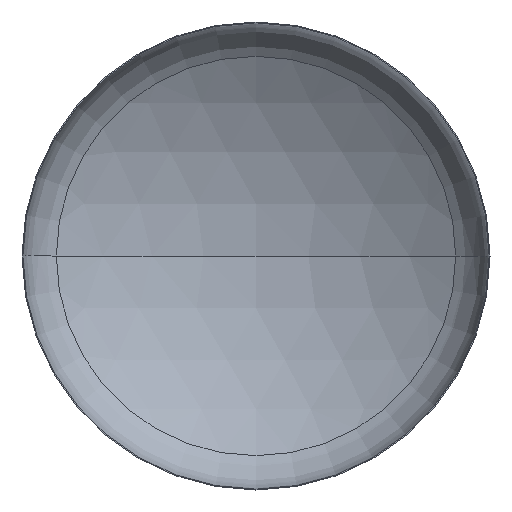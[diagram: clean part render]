
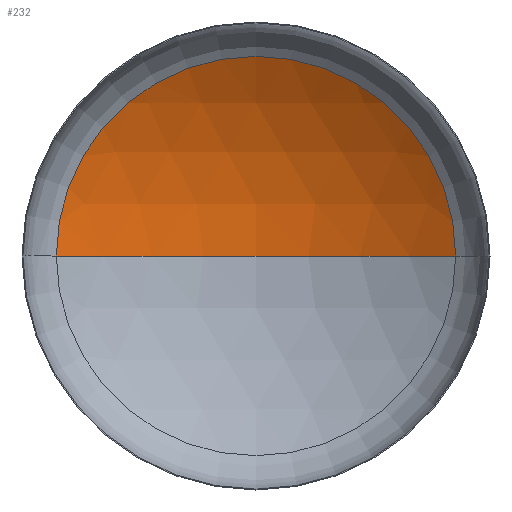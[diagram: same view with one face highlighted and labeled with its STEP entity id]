
A CAD part, front view. The second image highlights one B-rep face of the part: STEP entity #232.
In plain terms, the highlighted spherical face has radius 1280 mm.
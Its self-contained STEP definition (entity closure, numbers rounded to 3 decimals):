
#18 = EDGE_LOOP ( 'NONE', ( #36, #405, #155 ) ) ;
#29 = VERTEX_POINT ( 'NONE', #296 ) ;
#36 = ORIENTED_EDGE ( 'NONE', *, *, #269, .F. ) ;
#77 = SPHERICAL_SURFACE ( 'NONE', #182, 1280. ) ;
#90 = VERTEX_POINT ( 'NONE', #243 ) ;
#113 = AXIS2_PLACEMENT_3D ( 'NONE', #239, #236, #167 ) ;
#129 = AXIS2_PLACEMENT_3D ( 'NONE', #257, #292, #284 ) ;
#135 = VERTEX_POINT ( 'NONE', #325 ) ;
#154 = AXIS2_PLACEMENT_3D ( 'NONE', #222, #219, #221 ) ;
#155 = ORIENTED_EDGE ( 'NONE', *, *, #263, .T. ) ;
#167 = DIRECTION ( 'NONE',  ( 1., 0., 0. ) ) ;
#182 = AXIS2_PLACEMENT_3D ( 'NONE', #196, #346, #305 ) ;
#196 = CARTESIAN_POINT ( 'NONE',  ( 0., -855.512, 0. ) ) ;
#219 = DIRECTION ( 'NONE',  ( 0., -1., 0. ) ) ;
#221 = DIRECTION ( 'NONE',  ( 1., 0., 0. ) ) ;
#222 = CARTESIAN_POINT ( 'NONE',  ( 0., 227.247, 0. ) ) ;
#232 = ADVANCED_FACE ( 'NONE', ( #334 ), #77, .F. ) ;
#236 = DIRECTION ( 'NONE',  ( 0., 0., 1. ) ) ;
#239 = CARTESIAN_POINT ( 'NONE',  ( 0., -855.512, 0. ) ) ;
#243 = CARTESIAN_POINT ( 'NONE',  ( 682.667, 227.247, 0. ) ) ;
#257 = CARTESIAN_POINT ( 'NONE',  ( 0., -855.512, 0. ) ) ;
#260 = CIRCLE ( 'NONE', #129, 1280. ) ;
#263 = EDGE_CURVE ( 'NONE', #90, #135, #324, .T. ) ;
#265 = EDGE_CURVE ( 'NONE', #29, #90, #260, .T. ) ;
#269 = EDGE_CURVE ( 'NONE', #29, #135, #319, .T. ) ;
#284 = DIRECTION ( 'NONE',  ( -1., 0., 0. ) ) ;
#292 = DIRECTION ( 'NONE',  ( 0., 0., -1. ) ) ;
#296 = CARTESIAN_POINT ( 'NONE',  ( 0., 424.488, 0. ) ) ;
#305 = DIRECTION ( 'NONE',  ( -1., 0., 0. ) ) ;
#319 = CIRCLE ( 'NONE', #113, 1280. ) ;
#324 = CIRCLE ( 'NONE', #154, 682.667 ) ;
#325 = CARTESIAN_POINT ( 'NONE',  ( -682.667, 227.247, 0. ) ) ;
#334 = FACE_OUTER_BOUND ( 'NONE', #18, .T. ) ;
#346 = DIRECTION ( 'NONE',  ( 0., 0., -1. ) ) ;
#405 = ORIENTED_EDGE ( 'NONE', *, *, #265, .T. ) ;
